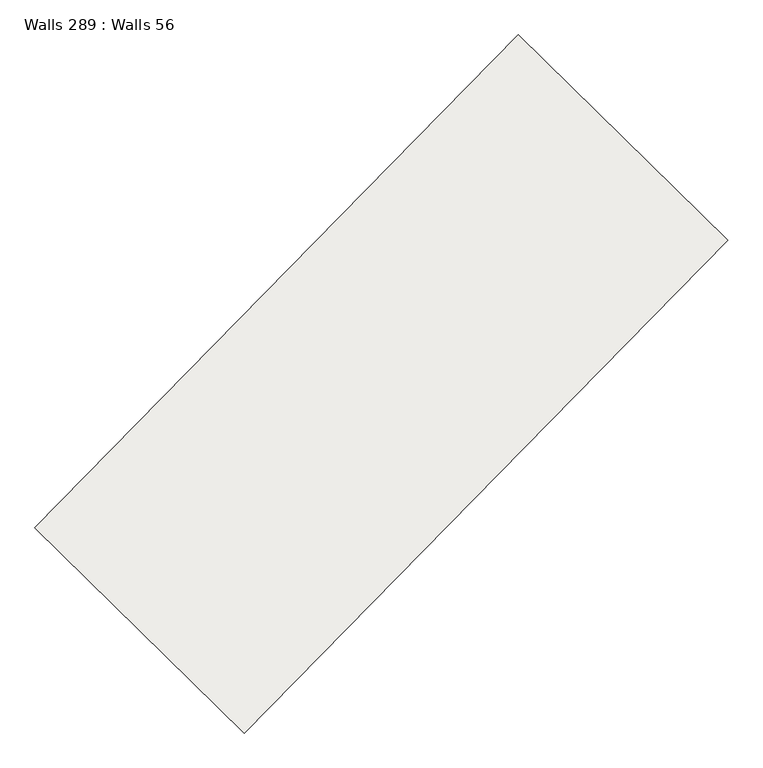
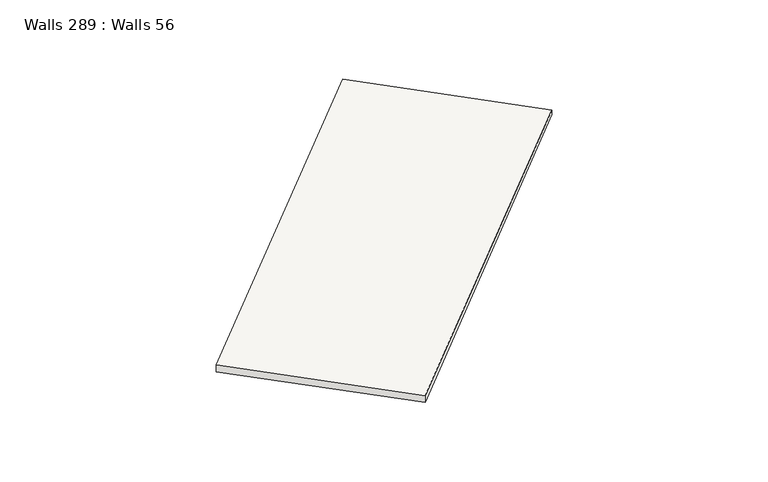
"""IFC4 building model written with IfcOpenShell, lengths in millimetres: slab geometry, Walls 289 : Walls 56."""

from ifc_helpers import new_model, si_unit, frame, origin, place, context, project, spatial, polyline, outline, extrude, source, transform, mapped, element, save


def walls_289_walls_56_a6a4adb7(model_context):
    return source(origin(), model_context, "Body", "SweptSolid", [
        extrude(outline(polyline([(-50.0, 0.0), (50.0, 0.0), (-40.0, -8699.9999994), (-180.0, -8699.9999994), (-50.0, 0.0)])), frame((-42605.4454602, -202760.6817093, 637430.0), z_axis=(-0.7137361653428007, 0.700414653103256, 0.0), x_axis=(0.0, 0.0, 1.0)), (0.0, 0.0, 1.0), 3699.999995),
    ])


if __name__ == "__main__":
    model = new_model("IFC4")
    model_context = context("Model", 3, world=origin())
    ifc_project = project(units=[si_unit("LENGTHUNIT", "METRE", prefix="MILLI")], contexts=[model_context])
    site = spatial("IfcSite", under=ifc_project)
    building = spatial("IfcBuilding", under=site)
    placement = place(None, origin())
    walls_289_walls_56_shape = walls_289_walls_56_a6a4adb7(model_context)
    element("IfcSlab", 1, ObjectType="Walls 289 : Walls 56", at=placement, inside=building, context=model_context, shape_type="MappedRepresentation", body=[
        mapped(walls_289_walls_56_shape, transform((0.0, 0.0, 0.0), x_axis=(1.0, 0.0, 0.0), y_axis=(0.0, 1.0, 0.0), z_axis=(0.0, 0.0, 1.0))),
    ])
    save(model, "model.ifc")
